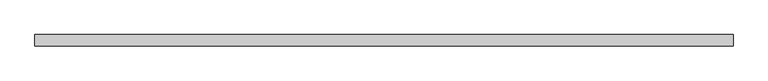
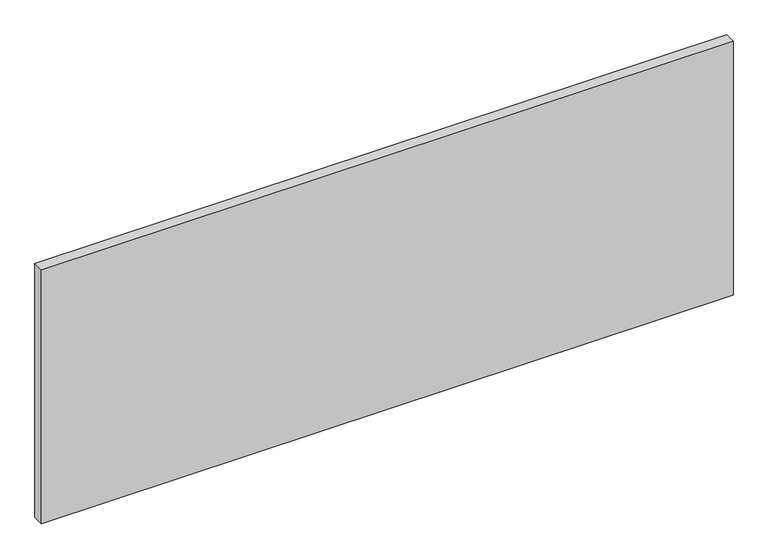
"""IFC4 building model written with IfcOpenShell, lengths in millimetres: plate geometry, 系统嵌板 : 玻璃."""

from ifc_helpers import new_model, si_unit, origin, origin_with_axes, place, context, project, spatial, polyline, outline, extrude, source, transform, mapped, element, save


def plate_a692ac92(model_context):
    return source(origin(), model_context, "Body", "SweptSolid", [
        extrude(outline(polyline([(760.0000002, -12.5), (-760.0000002, -12.5), (-760.0000002, 12.5), (760.0000002, 12.5), (760.0000002, -12.5)])), origin_with_axes(), (0.0, 0.0, 1.0), 590.0),
    ])


if __name__ == "__main__":
    model = new_model("IFC4")
    model_context = context("Model", 3, world=origin())
    ifc_project = project(units=[si_unit("LENGTHUNIT", "METRE", prefix="MILLI")], contexts=[model_context])
    site = spatial("IfcSite", under=ifc_project)
    building = spatial("IfcBuilding", under=site)
    placement = place(None, origin())
    plate_shape = plate_a692ac92(model_context)
    element("IfcPlate", 1, ObjectType="系统嵌板 : 玻璃", at=placement, inside=building, context=model_context, shape_type="MappedRepresentation", body=[
        mapped(plate_shape, transform((0.0, 0.0, 0.0), x_axis=(1.0, 0.0, 0.0), y_axis=(0.0, 1.0, 0.0), z_axis=(0.0, 0.0, 1.0))),
    ])
    save(model, "model.ifc")
